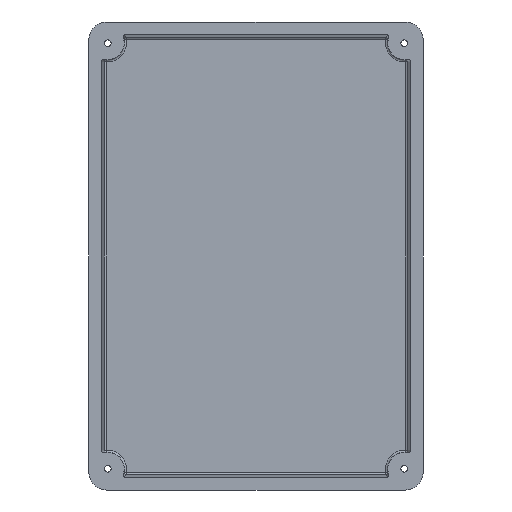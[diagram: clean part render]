
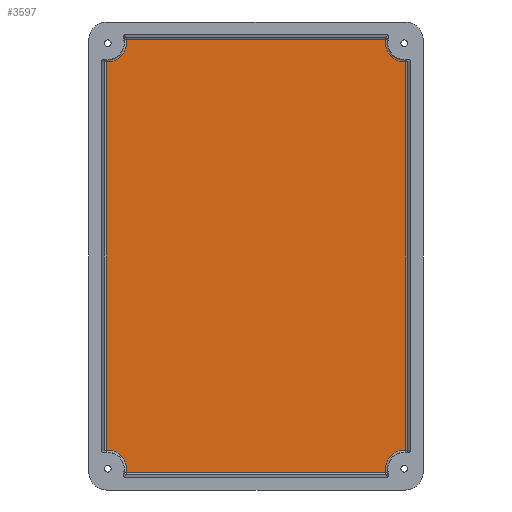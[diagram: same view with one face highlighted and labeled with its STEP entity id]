
A CAD part, front view. The second image highlights one B-rep face of the part: STEP entity #3597.
In plain terms, the highlighted planar face has unit normal (0, -1, 0).
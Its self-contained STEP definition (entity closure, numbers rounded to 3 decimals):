
#1035=CARTESIAN_POINT('',(66.5,28.,-95.5));
#1036=DIRECTION('',(0.,-1.,0.));
#1037=DIRECTION('',(0.071,0.,0.997));
#1038=AXIS2_PLACEMENT_3D('',#1035,#1036,#1037);
#1040=DIRECTION('',(-1.,0.,0.));
#1041=VECTOR('',#1040,116.567);
#1042=CARTESIAN_POINT('',(58.284,28.,-97.098));
#1043=LINE('3398',#1042,#1041);
#1044=CARTESIAN_POINT('',(-66.5,28.,-95.5));
#1045=DIRECTION('',(0.,-1.,0.));
#1046=DIRECTION('',(0.982,0.,-0.191));
#1047=AXIS2_PLACEMENT_3D('',#1044,#1045,#1046);
#1049=DIRECTION('',(0.,0.,1.));
#1050=VECTOR('',#1049,174.302);
#1051=CARTESIAN_POINT('',(-67.098,28.,-87.151));
#1052=LINE('3404',#1051,#1050);
#1053=CARTESIAN_POINT('',(-66.5,28.,95.5));
#1054=DIRECTION('',(0.,-1.,0.));
#1055=DIRECTION('',(-0.071,0.,-0.997));
#1056=AXIS2_PLACEMENT_3D('',#1053,#1054,#1055);
#1058=DIRECTION('',(1.,0.,0.));
#1059=VECTOR('',#1058,116.567);
#1060=CARTESIAN_POINT('',(-58.284,28.,97.098));
#1061=LINE('3410',#1060,#1059);
#1062=CARTESIAN_POINT('',(66.5,28.,95.5));
#1063=DIRECTION('',(0.,-1.,0.));
#1064=DIRECTION('',(-0.982,0.,0.191));
#1065=AXIS2_PLACEMENT_3D('',#1062,#1063,#1064);
#1067=DIRECTION('',(0.,0.,-1.));
#1068=VECTOR('',#1067,174.302);
#1069=CARTESIAN_POINT('',(67.098,28.,87.151));
#1070=LINE('3416',#1069,#1068);
#1509=CARTESIAN_POINT('',(67.098,28.,-87.151));
#1510=CARTESIAN_POINT('',(58.284,28.,-97.098));
#1511=VERTEX_POINT('',#1509);
#1512=VERTEX_POINT('',#1510);
#1517=CARTESIAN_POINT('',(-58.284,28.,-97.098));
#1518=VERTEX_POINT('',#1517);
#1523=CARTESIAN_POINT('',(-67.098,28.,-87.151));
#1524=VERTEX_POINT('',#1523);
#1529=CARTESIAN_POINT('',(-67.098,28.,87.151));
#1530=VERTEX_POINT('',#1529);
#1535=CARTESIAN_POINT('',(-58.284,28.,97.098));
#1536=VERTEX_POINT('',#1535);
#1541=CARTESIAN_POINT('',(58.284,28.,97.098));
#1542=VERTEX_POINT('',#1541);
#1547=CARTESIAN_POINT('',(67.098,28.,87.151));
#1548=VERTEX_POINT('',#1547);
#3575=CARTESIAN_POINT('',(0.,28.,0.));
#3576=DIRECTION('',(0.,1.,0.));
#3577=DIRECTION('',(-1.,0.,0.));
#3578=AXIS2_PLACEMENT_3D('',#3575,#3576,#3577);
#3579=PLANE('1311',#3578);
#3581=ORIENTED_EDGE('3395',*,*,#3580,.T.);
#3583=ORIENTED_EDGE('3398',*,*,#3582,.T.);
#3585=ORIENTED_EDGE('3401',*,*,#3584,.T.);
#3587=ORIENTED_EDGE('3404',*,*,#3586,.T.);
#3588=ORIENTED_EDGE('3407',*,*,#3565,.T.);
#3590=ORIENTED_EDGE('3410',*,*,#3589,.T.);
#3592=ORIENTED_EDGE('3413',*,*,#3591,.T.);
#3594=ORIENTED_EDGE('3416',*,*,#3593,.T.);
#3595=EDGE_LOOP('1311',(#3581,#3583,#3585,#3587,#3588,#3590,#3592,#3594));
#3596=FACE_OUTER_BOUND('1311',#3595,.F.);
#3597=ADVANCED_FACE('1311',(#3596),#3579,.F.);
#1039=CIRCLE('3395',#1038,8.37);
#1048=CIRCLE('3401',#1047,8.37);
#1057=CIRCLE('3407',#1056,8.37);
#1066=CIRCLE('3413',#1065,8.37);
#3565=EDGE_CURVE('3407',#1530,#1536,#1057,.T.);
#3580=EDGE_CURVE('3395',#1511,#1512,#1039,.T.);
#3582=EDGE_CURVE('3398',#1512,#1518,#1043,.T.);
#3584=EDGE_CURVE('3401',#1518,#1524,#1048,.T.);
#3586=EDGE_CURVE('3404',#1524,#1530,#1052,.T.);
#3589=EDGE_CURVE('3410',#1536,#1542,#1061,.T.);
#3591=EDGE_CURVE('3413',#1542,#1548,#1066,.T.);
#3593=EDGE_CURVE('3416',#1548,#1511,#1070,.T.);
